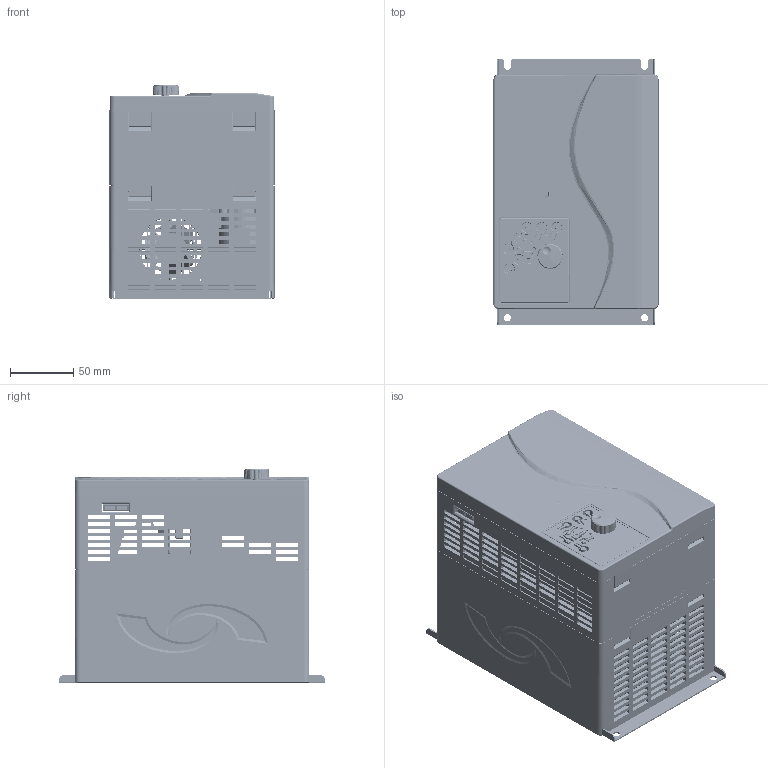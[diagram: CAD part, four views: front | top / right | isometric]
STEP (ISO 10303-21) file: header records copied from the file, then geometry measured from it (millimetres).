
FILE_DESCRIPTION((''),'2;1');
FILE_NAME('4055KW_ASM','2023-05-23T15:06:58',('ZhangJF'),(''),'CREO PARAMETRIC BY PTC INC, 2019010','CREO PARAMETRIC BY PTC INC, 2019010','');
FILE_SCHEMA(('CONFIG_CONTROL_DESIGN','SHAPE_APPEARANCE_LAYERS_GROUPS'));
Products named in the file (16): CAOZUOQISHANGKE; PCB-CAOZUOQI; XUANNIU; CAOZUOQIXIAKE; XIANSHICHUANG; CAOZUOQI_ASM; 3755-SHANGKE; 3755-ZHONGKE; 3755-XIAKE; 3755-FENGSHANGUDINGJIA; 3755-DUANITAIDANGBAN; 3755-DIBAN; 3755-SANREQI; DAODIANPIAN; FENGSHAN; 4055KW_ASM
Assembly tree (15 placements, depth 3):
  4055KW_ASM
    CAOZUOQI_ASM
      CAOZUOQISHANGKE
      PCB-CAOZUOQI
      XUANNIU
      CAOZUOQIXIAKE
      XIANSHICHUANG
    3755-SHANGKE
    3755-ZHONGKE
    3755-XIAKE
    3755-FENGSHANGUDINGJIA
    3755-DUANITAIDANGBAN
    3755-DIBAN
    3755-SANREQI
    DAODIANPIAN
    FENGSHAN
Bounding box: 130.01 x 209 x 169.1 mm (x, y, z)
Volume: 704538.3 mm3; surface area: 724638 mm2
Topology: 15 solids, 15 shells, 13037 faces, 35979 edges, 23414 vertices
Faces by surface type: plane 9852, cylinder 1866, bspline 446, torus 370, cone 241, sphere 220, extrusion 42
Entity records: 543215 total; most frequent: CARTESIAN_POINT 99819, ORIENTED_EDGE 71942, DIRECTION 64487, PRESENTATION_STYLE_ASSIGNMENT 36130, STYLED_ITEM 35986, CURVE_STYLE 35971, EDGE_CURVE 35971, VECTOR 29481
